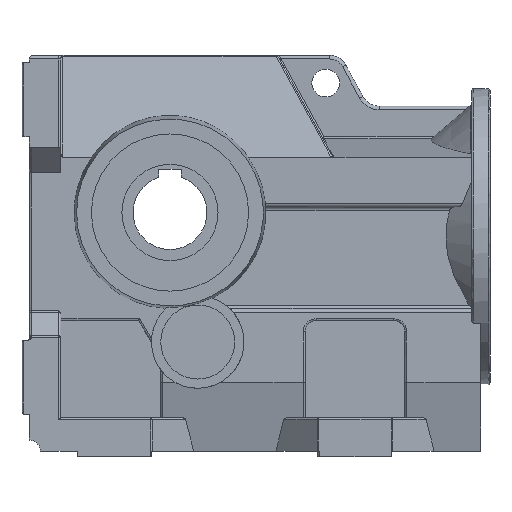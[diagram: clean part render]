
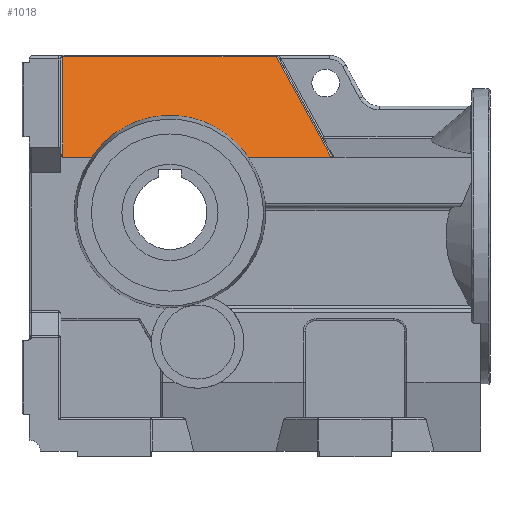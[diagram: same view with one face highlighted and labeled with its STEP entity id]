
A CAD part, front view. The second image highlights one B-rep face of the part: STEP entity #1018.
In plain terms, the highlighted planar face has unit normal (0, -0.94, 0.342).
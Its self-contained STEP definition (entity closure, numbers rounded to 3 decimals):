
#763=CARTESIAN_POINT('',(-102.0,-45.488,215.658));
#764=VERTEX_POINT('',#763);
#782=CARTESIAN_POINT('',(-102.0,-65.,162.));
#783=VERTEX_POINT('',#782);
#791=CARTESIAN_POINT('',(-102.0,-65.,162.));
#792=DIRECTION('',(0.0,0.342,0.94));
#793=VECTOR('',#792,57.096);
#794=LINE('',#791,#793);
#795=EDGE_CURVE('',#783,#764,#794,.T.);
#833=CARTESIAN_POINT('',(-102.12,-45.239,216.342));
#834=VERTEX_POINT('',#833);
#852=CARTESIAN_POINT('',(-104.,-45.488,215.658));
#853=DIRECTION('',(0.0,-0.94,0.342));
#854=DIRECTION('',(0.,0.342,0.94));
#855=AXIS2_PLACEMENT_3D('',#852,#853,#854);
#856=ELLIPSE('',#855,2.128,2.0);
#857=EDGE_CURVE('',#764,#834,#856,.T.);
#938=CARTESIAN_POINT('',(13.406,-45.239,216.342));
#939=VERTEX_POINT('',#938);
#940=CARTESIAN_POINT('',(-102.12,-45.239,216.342));
#941=DIRECTION('',(1.0,0.0,0.0));
#942=VECTOR('',#941,115.527);
#943=LINE('',#940,#942);
#944=EDGE_CURVE('',#834,#939,#943,.T.);
#964=CARTESIAN_POINT('',(5.25,-55.,189.5));
#965=DIRECTION('',(0.0,-0.94,0.342));
#966=DIRECTION('',(0.0,-0.342,-0.94));
#967=AXIS2_PLACEMENT_3D('',#964,#965,#966);
#968=PLANE('',#967);
#969=ORIENTED_EDGE('',*,*,#857,.F.);
#970=ORIENTED_EDGE('',*,*,#795,.F.);
#971=CARTESIAN_POINT('',(-86.245,-65.,162.));
#972=VERTEX_POINT('',#971);
#973=CARTESIAN_POINT('',(-102.0,-65.,162.));
#974=DIRECTION('',(1.0,0.0,0.0));
#975=VECTOR('',#974,15.755);
#976=LINE('',#973,#975);
#977=EDGE_CURVE('',#783,#972,#976,.T.);
#978=ORIENTED_EDGE('',*,*,#977,.T.);
#979=CARTESIAN_POINT('',(-1.755,-65.,162.));
#980=VERTEX_POINT('',#979);
#981=CARTESIAN_POINT('',(-44.,-75.32,133.62));
#982=DIRECTION('',(0.,0.94,-0.342));
#983=DIRECTION('',(0.,-0.342,-0.94));
#984=AXIS2_PLACEMENT_3D('',#981,#982,#983);
#985=ELLIPSE('',#984,54.172,50.885);
#986=EDGE_CURVE('',#972,#980,#985,.T.);
#987=ORIENTED_EDGE('',*,*,#986,.T.);
#988=CARTESIAN_POINT('',(44.098,-65.,162.));
#989=VERTEX_POINT('',#988);
#990=CARTESIAN_POINT('',(-1.755,-65.,162.));
#991=DIRECTION('',(1.0,0.0,0.0));
#992=VECTOR('',#991,45.853);
#993=LINE('',#990,#992);
#994=EDGE_CURVE('',#980,#989,#993,.T.);
#995=ORIENTED_EDGE('',*,*,#994,.T.);
#996=CARTESIAN_POINT('',(42.748,-64.8,162.549));
#997=VERTEX_POINT('',#996);
#998=CARTESIAN_POINT('',(42.748,-64.8,162.549));
#999=CARTESIAN_POINT('',(42.751,-64.801,162.547));
#1000=CARTESIAN_POINT('',(42.754,-64.802,162.544));
#1001=CARTESIAN_POINT('',(43.001,-64.87,162.357));
#1002=CARTESIAN_POINT('',(43.244,-64.926,162.203));
#1003=CARTESIAN_POINT('',(43.752,-64.993,162.019));
#1004=CARTESIAN_POINT('',(43.951,-65.,162.));
#1005=CARTESIAN_POINT('',(44.098,-65.,162.));
#1006=B_SPLINE_CURVE_WITH_KNOTS('',3,(#998,#999,#1000,#1001,#1002,#1003,#1004,#1005),.UNSPECIFIED.,.F.,.U.,(4,2,2,4),(-0.001,0.0,0.094,0.18),.UNSPECIFIED.);
#1007=EDGE_CURVE('',#997,#989,#1006,.T.);
#1008=ORIENTED_EDGE('',*,*,#1007,.F.);
#1009=CARTESIAN_POINT('',(13.406,-45.239,216.342));
#1010=DIRECTION('',(0.456,-0.304,-0.836));
#1011=VECTOR('',#1010,64.322);
#1012=LINE('',#1009,#1011);
#1013=EDGE_CURVE('',#939,#997,#1012,.T.);
#1014=ORIENTED_EDGE('',*,*,#1013,.F.);
#1015=ORIENTED_EDGE('',*,*,#944,.F.);
#1016=EDGE_LOOP('',(#969,#970,#978,#987,#995,#1008,#1014,#1015));
#1017=FACE_OUTER_BOUND('',#1016,.T.);
#1018=ADVANCED_FACE('',(#1017),#968,.T.);
